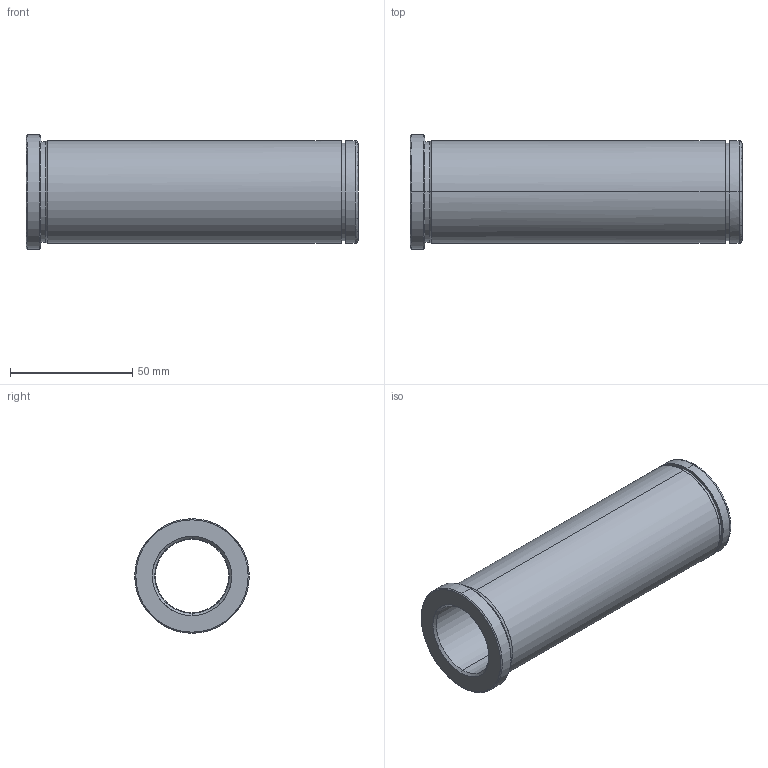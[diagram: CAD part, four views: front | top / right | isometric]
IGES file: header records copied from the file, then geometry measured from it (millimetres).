
Start section: START RECORD GO HERE.
Global section: file name: 553-30X136.igs; native system: DASSAULT SYSTEMES CATIA V5 R20 - www.3ds.com; preprocessor: CATIA Version 5 Release 20 ; author: Utente; organization: NB04-ASUS; date: 20210526.201931; units: millimetre
Bounding box: 136 x 47 x 47 mm (x, y, z)
Surface area: 32987.8 mm2 (no closed solid volume)
Topology: 0 solids, 0 shells, 32 faces, 204 edges, 204 vertices
Faces by surface type: revolution 26, plane 6
